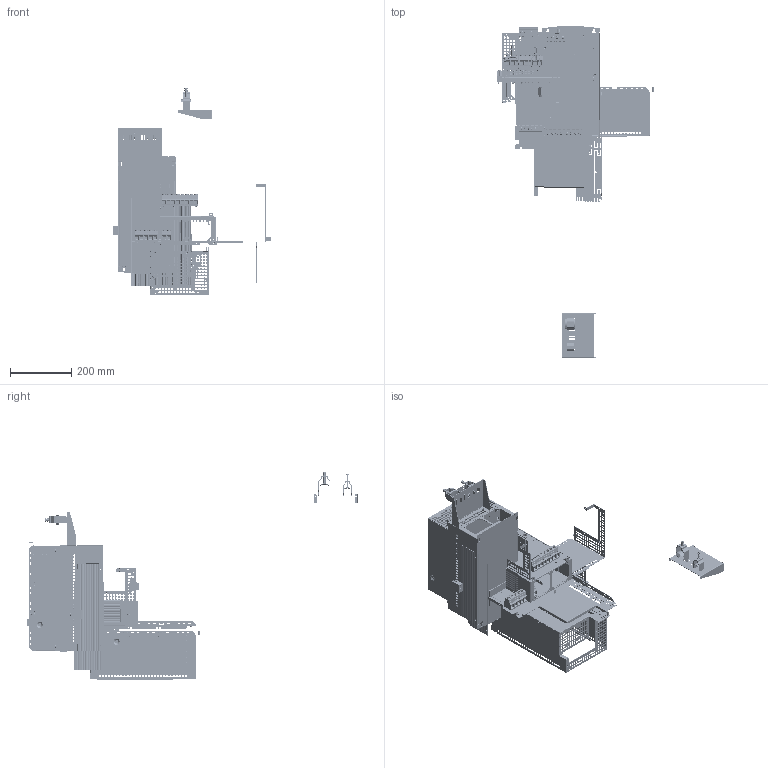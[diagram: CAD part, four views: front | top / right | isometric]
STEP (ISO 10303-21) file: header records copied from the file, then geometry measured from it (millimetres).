
FILE_DESCRIPTION( ( 'S748 / S772' ), '1' );
FILE_NAME( 'D:/3D Daten/Solid Edge Module/Baugruppen/S748_72/Zusammenbau/Zusammenbau/A.3.054.4_44_2_homepage.stp', 'Unknown', ( 'Lars Lindner' ), ( 'Danaher Motion GmBH' ), 'PSStep 10.0', 'Sold Edge V20', ' ' );
FILE_SCHEMA( ( 'automotive_design' ) );
Length unit declared in the file: millimetre
Products named in the file (18): Baugruppe Komplett_0; Bleche_und_Kleinteile_rev_3; Baugruppe Komplett_127; Baugruppe Komplett_2; Assem1; LTI_Endstufe_BG5_rev_1; Zubehör_rev_2; Luftkühler_Standard; Lüfterkasten_Standard; MKDSP25-8-15_Standard; MKDSP25-4-15_Standard; A.3.054.4_42_2; A.3.054.4_43_2; A.3.054.4_41_2; Montageblech_Standard; A.3.054.4_47_01; Schelle16_22; Schelle28_34
Bounding box: 516.53 x 1083.46 x 681.28 mm (x, y, z)
Volume: 5456520.9 mm3; surface area: 3273810.8 mm2
Topology: 37 solids, 37 shells, 15178 faces, 42824 edges, 28163 vertices
Faces by surface type: plane 9717, cylinder 5009, torus 165, cone 155, extrusion 132
Full cylindrical faces by diameter (mm): 0.457 x8, 1.6 x192, 2.106 x48, 2.459 x4, 2.5 x18, 3 x45, 3.2 x9, 3.242 x40, 3.422 x8, 3.499 x3, 3.5 x15, 3.6 x12, 4 x39, 4.134 x40, 4.2 x12, 4.5 x38, 4.7 x3, 4.8 x72, 5 x9, 5.4 x14, 5.8 x6, 7 x48, 7.2 x8, 7.5 x48, 7.8 x9, 7.9 x12, 8 x1140, 10 x19, 10.8 x48, 12 x8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
Entity records: 143215 total; most frequent: CARTESIAN_POINT 28773, ORIENTED_EDGE 23002, DIRECTION 22924, EDGE_CURVE 11501, VERTEX_POINT 7953, VECTOR 7680, LINE 7636, AXIS2_PLACEMENT_3D 7622
